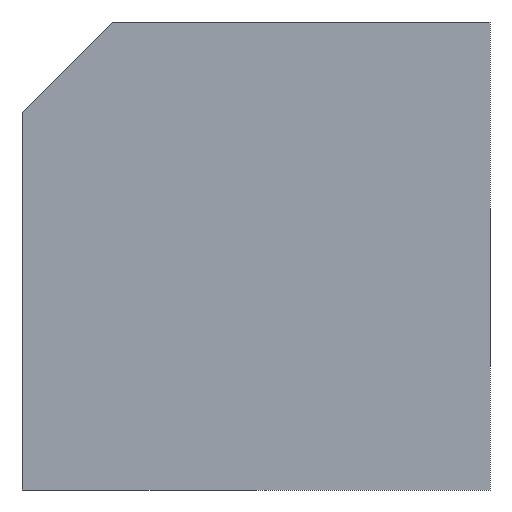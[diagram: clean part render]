
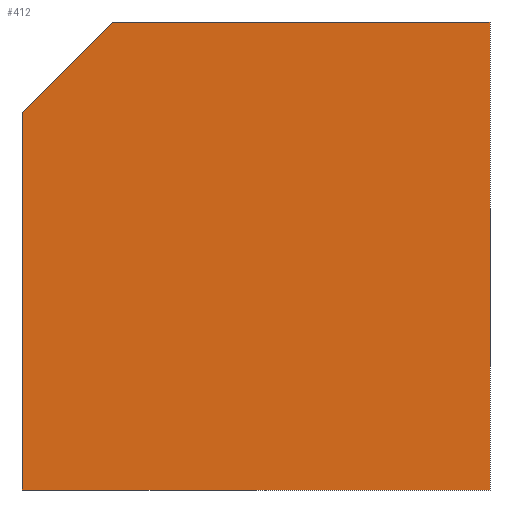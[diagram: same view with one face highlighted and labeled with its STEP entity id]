
A CAD part, left-side view. The second image highlights one B-rep face of the part: STEP entity #412.
In plain terms, the highlighted planar face has unit normal (-1, 0, 0).
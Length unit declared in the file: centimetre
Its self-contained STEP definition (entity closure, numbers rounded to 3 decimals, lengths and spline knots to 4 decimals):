
#13 = CARTESIAN_POINT ( 'NONE',  ( 0., 1000., 0. ) ) ;
#28 = VECTOR ( 'NONE', #401, 100. ) ;
#32 = EDGE_CURVE ( 'NONE', #255, #356, #219, .T. ) ;
#38 = LINE ( 'NONE', #193, #154 ) ;
#39 = ORIENTED_EDGE ( 'NONE', *, *, #260, .T. ) ;
#49 = VERTEX_POINT ( 'NONE', #318 ) ;
#61 = EDGE_CURVE ( 'NONE', #220, #327, #38, .T. ) ;
#75 = DIRECTION ( 'NONE',  ( 0., -1., 0. ) ) ;
#81 = ORIENTED_EDGE ( 'NONE', *, *, #340, .F. ) ;
#82 = CARTESIAN_POINT ( 'NONE',  ( 0., 0., 1000. ) ) ;
#95 = VECTOR ( 'NONE', #348, 100. ) ;
#120 = EDGE_CURVE ( 'NONE', #327, #356, #126, .T. ) ;
#122 = LINE ( 'NONE', #276, #124 ) ;
#124 = VECTOR ( 'NONE', #247, 100. ) ;
#126 = LINE ( 'NONE', #355, #375 ) ;
#131 = CARTESIAN_POINT ( 'NONE',  ( 0., 0., 1000. ) ) ;
#154 = VECTOR ( 'NONE', #258, 100. ) ;
#165 = PLANE ( 'NONE',  #217 ) ;
#174 = EDGE_LOOP ( 'NONE', ( #81, #39, #196, #389, #263 ) ) ;
#193 = CARTESIAN_POINT ( 'NONE',  ( 0., 1000., 1000. ) ) ;
#196 = ORIENTED_EDGE ( 'NONE', *, *, #61, .T. ) ;
#200 = CARTESIAN_POINT ( 'NONE',  ( 0., 1000., 1000. ) ) ;
#217 = AXIS2_PLACEMENT_3D ( 'NONE', #200, #349, #222 ) ;
#219 = LINE ( 'NONE', #131, #95 ) ;
#220 = VERTEX_POINT ( 'NONE', #396 ) ;
#222 = DIRECTION ( 'NONE',  ( 0., 0., -1. ) ) ;
#240 = CARTESIAN_POINT ( 'NONE',  ( 0., 807.2376, 1000. ) ) ;
#246 = CARTESIAN_POINT ( 'NONE',  ( 0., 0., 0. ) ) ;
#247 = DIRECTION ( 'NONE',  ( 0., -1., 0. ) ) ;
#255 = VERTEX_POINT ( 'NONE', #82 ) ;
#258 = DIRECTION ( 'NONE',  ( 0., 0., -1. ) ) ;
#260 = EDGE_CURVE ( 'NONE', #49, #220, #403, .T. ) ;
#263 = ORIENTED_EDGE ( 'NONE', *, *, #32, .F. ) ;
#276 = CARTESIAN_POINT ( 'NONE',  ( 0., 1000., 1000. ) ) ;
#290 = FACE_OUTER_BOUND ( 'NONE', #174, .T. ) ;
#318 = CARTESIAN_POINT ( 'NONE',  ( 0., 807.2376, 1000. ) ) ;
#327 = VERTEX_POINT ( 'NONE', #13 ) ;
#340 = EDGE_CURVE ( 'NONE', #49, #255, #122, .T. ) ;
#348 = DIRECTION ( 'NONE',  ( 0., 0., -1. ) ) ;
#349 = DIRECTION ( 'NONE',  ( 1., 0., 0. ) ) ;
#355 = CARTESIAN_POINT ( 'NONE',  ( 0., 1000., 0. ) ) ;
#356 = VERTEX_POINT ( 'NONE', #246 ) ;
#375 = VECTOR ( 'NONE', #75, 100. ) ;
#389 = ORIENTED_EDGE ( 'NONE', *, *, #120, .T. ) ;
#396 = CARTESIAN_POINT ( 'NONE',  ( 0., 1000., 807.2376 ) ) ;
#401 = DIRECTION ( 'NONE',  ( 0., 0.707, -0.707 ) ) ;
#403 = LINE ( 'NONE', #240, #28 ) ;
#412 = ADVANCED_FACE ( 'NONE', ( #290 ), #165, .F. ) ;
